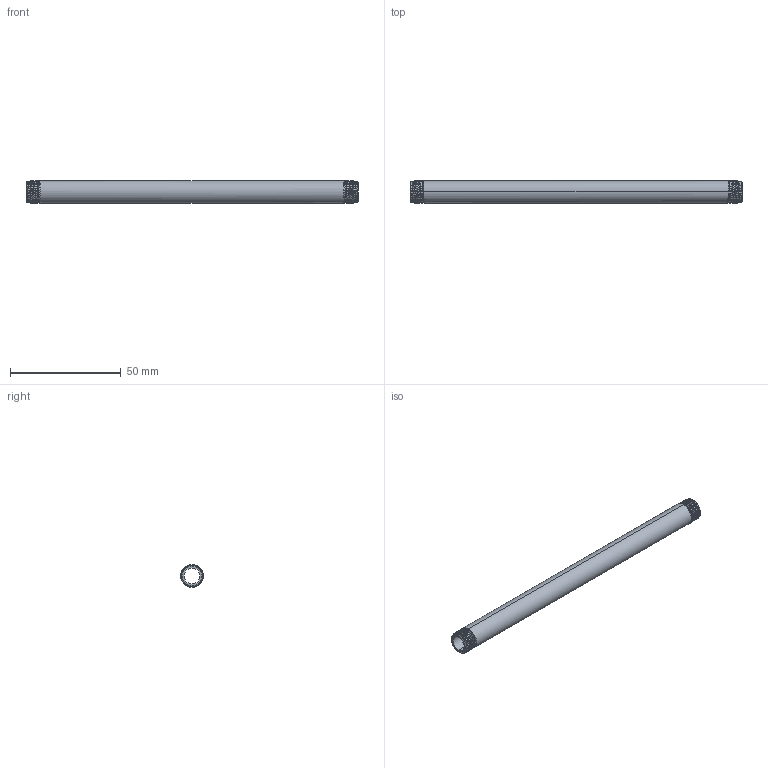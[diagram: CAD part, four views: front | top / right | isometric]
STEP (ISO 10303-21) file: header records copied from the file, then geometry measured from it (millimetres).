
FILE_DESCRIPTION (( 'STEP AP203' ), '1' );
FILE_NAME ('3D_R210_1-8x150_17185400.STEP', '2024-08-16T10:46:07', ( '' ), ( '' ), 'SwSTEP 2.0', 'SolidWorks 2024', '' );
FILE_SCHEMA (( 'CONFIG_CONTROL_DESIGN' ));
Length unit declared in the file: millimetre
Products named in the file (1): 3D_R210_1-8x150_17185400
Bounding box: 150 x 10.2 x 10.2 mm (x, y, z)
Volume: 6065.2 mm3; surface area: 8412.9 mm2
Topology: 1 solids, 1 shells, 54 faces, 150 edges, 98 vertices
Faces by surface type: cone 40, bspline 6, cylinder 4, plane 4
Entity records: 6878 total; most frequent: CARTESIAN_POINT 5622, ORIENTED_EDGE 300, DIRECTION 166, EDGE_CURVE 150, VERTEX_POINT 98, B_SPLINE_CURVE_WITH_KNOTS 86, AXIS2_PLACEMENT_3D 61, EDGE_LOOP 56
